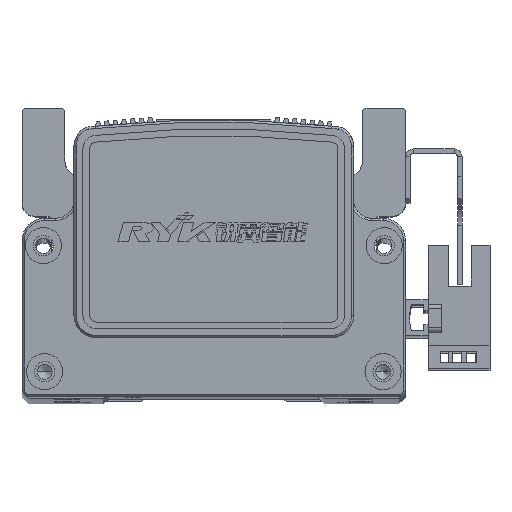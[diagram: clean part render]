
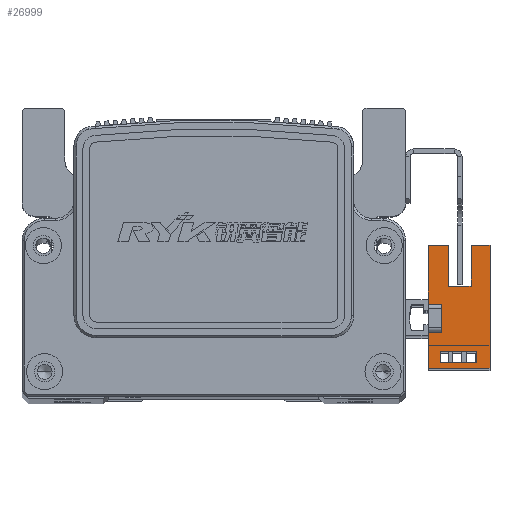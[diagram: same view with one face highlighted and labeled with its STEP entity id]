
A CAD part, top view. The second image highlights one B-rep face of the part: STEP entity #26999.
In plain terms, the highlighted planar face has unit normal (0, 0, 1) as drawn and (1, 0, 0) by its records, which use the part's own axes.
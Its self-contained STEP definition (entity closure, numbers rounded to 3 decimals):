
#953 = FACE_OUTER_BOUND ( 'NONE', #24796, .T. ) ;
#975 = FACE_BOUND ( 'NONE', #24797, .T. ) ;
#2653 = CARTESIAN_POINT ( 'NONE',  ( 3.2, 16.1, -10.7 ) ) ;
#2657 = CARTESIAN_POINT ( 'NONE',  ( 3.2, 3.1, 0. ) ) ;
#2684 = CARTESIAN_POINT ( 'NONE',  ( 3.2, -3.1, 3. ) ) ;
#2685 = CARTESIAN_POINT ( 'NONE',  ( 3.2, -9.83, -7.7 ) ) ;
#2697 = CARTESIAN_POINT ( 'NONE',  ( 3.2, -11.1, 3. ) ) ;
#2703 = CARTESIAN_POINT ( 'NONE',  ( 3.2, 3.1, 3. ) ) ;
#2706 = CARTESIAN_POINT ( 'NONE',  ( 3.2, 16.1, 3. ) ) ;
#2721 = CARTESIAN_POINT ( 'NONE',  ( 3.2, 7.1, -1.5 ) ) ;
#2743 = CARTESIAN_POINT ( 'NONE',  ( 3.2, 16.1, -1.5 ) ) ;
#2749 = CARTESIAN_POINT ( 'NONE',  ( 3.2, -7.33, -7.7 ) ) ;
#2754 = CARTESIAN_POINT ( 'NONE',  ( 3.2, -3.1, 0. ) ) ;
#2758 = CARTESIAN_POINT ( 'NONE',  ( 3.2, -9.83, 0.3 ) ) ;
#2766 = CARTESIAN_POINT ( 'NONE',  ( 3.2, -7.33, 0.3 ) ) ;
#2768 = CARTESIAN_POINT ( 'NONE',  ( 3.2, 16.1, -6.5 ) ) ;
#2794 = CARTESIAN_POINT ( 'NONE',  ( 3.2, -11.1, -10.7 ) ) ;
#2812 = CARTESIAN_POINT ( 'NONE',  ( 3.2, 7.1, -6.5 ) ) ;
#6299 = CARTESIAN_POINT ( 'NONE',  ( 3.2, 16.1, -10.7 ) ) ;
#6326 = DIRECTION ( 'NONE',  ( 1., 0., 0. ) ) ;
#6340 = PLANE ( 'NONE',  #60244 ) ;
#6342 = DIRECTION ( 'NONE',  ( 0., 1., 0. ) ) ;
#22884 = EDGE_CURVE ( 'NONE', #46561, #46519, #55185, .T. ) ;
#22904 = EDGE_CURVE ( 'NONE', #46532, #46538, #55256, .T. ) ;
#22924 = EDGE_CURVE ( 'NONE', #46556, #46589, #55312, .T. ) ;
#22980 = EDGE_CURVE ( 'NONE', #46624, #46564, #55421, .T. ) ;
#22984 = EDGE_CURVE ( 'NONE', #46519, #46624, #55450, .T. ) ;
#22998 = EDGE_CURVE ( 'NONE', #46594, #46631, #55446, .T. ) ;
#23003 = EDGE_CURVE ( 'NONE', #46648, #46597, #55447, .T. ) ;
#23010 = EDGE_CURVE ( 'NONE', #46645, #46556, #55459, .T. ) ;
#23017 = EDGE_CURVE ( 'NONE', #46632, #46594, #55472, .T. ) ;
#23040 = EDGE_CURVE ( 'NONE', #46645, #46561, #55559, .T. ) ;
#23044 = EDGE_CURVE ( 'NONE', #46564, #46532, #55538, .T. ) ;
#23053 = EDGE_CURVE ( 'NONE', #46597, #46621, #55618, .T. ) ;
#23055 = EDGE_CURVE ( 'NONE', #46589, #46648, #55601, .T. ) ;
#23104 = EDGE_CURVE ( 'NONE', #46621, #46538, #55694, .T. ) ;
#23107 = EDGE_CURVE ( 'NONE', #46560, #46632, #55645, .T. ) ;
#23117 = EDGE_CURVE ( 'NONE', #46631, #46560, #55658, .T. ) ;
#24796 = EDGE_LOOP ( 'NONE', ( #30878, #30899, #30931, #30918, #30849, #30823, #30891, #30932, #30922, #30872, #30820, #30893 ) ) ;
#24797 = EDGE_LOOP ( 'NONE', ( #30854, #30896, #30929, #30864 ) ) ;
#26999 = ADVANCED_FACE ( 'NONE', ( #953, #975 ), #6340, .T. ) ;
#30820 = ORIENTED_EDGE ( 'NONE', *, *, #23010, .T. ) ;
#30823 = ORIENTED_EDGE ( 'NONE', *, *, #23044, .F. ) ;
#30849 = ORIENTED_EDGE ( 'NONE', *, *, #22904, .F. ) ;
#30854 = ORIENTED_EDGE ( 'NONE', *, *, #22998, .F. ) ;
#30864 = ORIENTED_EDGE ( 'NONE', *, *, #23117, .F. ) ;
#30872 = ORIENTED_EDGE ( 'NONE', *, *, #23040, .F. ) ;
#30878 = ORIENTED_EDGE ( 'NONE', *, *, #23055, .T. ) ;
#30891 = ORIENTED_EDGE ( 'NONE', *, *, #22980, .F. ) ;
#30893 = ORIENTED_EDGE ( 'NONE', *, *, #22924, .T. ) ;
#30896 = ORIENTED_EDGE ( 'NONE', *, *, #23017, .F. ) ;
#30899 = ORIENTED_EDGE ( 'NONE', *, *, #23003, .T. ) ;
#30918 = ORIENTED_EDGE ( 'NONE', *, *, #23104, .T. ) ;
#30922 = ORIENTED_EDGE ( 'NONE', *, *, #22884, .F. ) ;
#30929 = ORIENTED_EDGE ( 'NONE', *, *, #23107, .F. ) ;
#30931 = ORIENTED_EDGE ( 'NONE', *, *, #23053, .T. ) ;
#30932 = ORIENTED_EDGE ( 'NONE', *, *, #22984, .F. ) ;
#46519 = VERTEX_POINT ( 'NONE', #2684 ) ;
#46532 = VERTEX_POINT ( 'NONE', #2703 ) ;
#46538 = VERTEX_POINT ( 'NONE', #2706 ) ;
#46556 = VERTEX_POINT ( 'NONE', #2653 ) ;
#46560 = VERTEX_POINT ( 'NONE', #2685 ) ;
#46561 = VERTEX_POINT ( 'NONE', #2697 ) ;
#46564 = VERTEX_POINT ( 'NONE', #2657 ) ;
#46589 = VERTEX_POINT ( 'NONE', #2768 ) ;
#46594 = VERTEX_POINT ( 'NONE', #2766 ) ;
#46597 = VERTEX_POINT ( 'NONE', #2721 ) ;
#46621 = VERTEX_POINT ( 'NONE', #2743 ) ;
#46624 = VERTEX_POINT ( 'NONE', #2754 ) ;
#46631 = VERTEX_POINT ( 'NONE', #2758 ) ;
#46632 = VERTEX_POINT ( 'NONE', #2749 ) ;
#46645 = VERTEX_POINT ( 'NONE', #2794 ) ;
#46648 = VERTEX_POINT ( 'NONE', #2812 ) ;
#49223 = DIRECTION ( 'NONE',  ( 0., 0., 1. ) ) ;
#49256 = CARTESIAN_POINT ( 'NONE',  ( 3.2, -7.33, -10.7 ) ) ;
#49288 = CARTESIAN_POINT ( 'NONE',  ( 3.2, -11.1, 3. ) ) ;
#49289 = DIRECTION ( 'NONE',  ( 0., 0., 1. ) ) ;
#49314 = CARTESIAN_POINT ( 'NONE',  ( 3.2, 25.1, -1.5 ) ) ;
#49323 = DIRECTION ( 'NONE',  ( 0., 0., 1. ) ) ;
#49325 = DIRECTION ( 'NONE',  ( 0., 1., 0. ) ) ;
#49338 = CARTESIAN_POINT ( 'NONE',  ( 3.2, 3.1, 3. ) ) ;
#49381 = DIRECTION ( 'NONE',  ( 0., -1., 0. ) ) ;
#49388 = CARTESIAN_POINT ( 'NONE',  ( 3.2, 25.1, -6.5 ) ) ;
#49594 = CARTESIAN_POINT ( 'NONE',  ( 3.2, 16.1, -7.7 ) ) ;
#49625 = DIRECTION ( 'NONE',  ( 0., 1., 0. ) ) ;
#49645 = CARTESIAN_POINT ( 'NONE',  ( 3.2, 16.1, -10.7 ) ) ;
#49647 = DIRECTION ( 'NONE',  ( 0., 0., 1. ) ) ;
#49699 = CARTESIAN_POINT ( 'NONE',  ( 3.2, -9.83, -10.7 ) ) ;
#49715 = DIRECTION ( 'NONE',  ( 0., 0., -1. ) ) ;
#52565 = DIRECTION ( 'NONE',  ( 0., -1., 0. ) ) ;
#52585 = DIRECTION ( 'NONE',  ( 0., 0., 1. ) ) ;
#52620 = DIRECTION ( 'NONE',  ( 0., 1., 0. ) ) ;
#52632 = CARTESIAN_POINT ( 'NONE',  ( 3.2, 16.1, -10.7 ) ) ;
#52648 = CARTESIAN_POINT ( 'NONE',  ( 3.2, 7.1, -6.5 ) ) ;
#54121 = CARTESIAN_POINT ( 'NONE',  ( 3.2, 16.1, 3. ) ) ;
#54167 = DIRECTION ( 'NONE',  ( 0., 1., 0. ) ) ;
#54224 = DIRECTION ( 'NONE',  ( 0., 1., 0. ) ) ;
#54238 = CARTESIAN_POINT ( 'NONE',  ( 3.2, 16.1, 3. ) ) ;
#54325 = DIRECTION ( 'NONE',  ( 0., 0., 1. ) ) ;
#54350 = CARTESIAN_POINT ( 'NONE',  ( 3.2, 16.1, -10.7 ) ) ;
#54471 = CARTESIAN_POINT ( 'NONE',  ( 3.2, 0., 0. ) ) ;
#54491 = DIRECTION ( 'NONE',  ( 0., 1., 0. ) ) ;
#54569 = CARTESIAN_POINT ( 'NONE',  ( 3.2, 16.1, 0.3 ) ) ;
#54581 = CARTESIAN_POINT ( 'NONE',  ( 3.2, -3.1, 3. ) ) ;
#54587 = DIRECTION ( 'NONE',  ( 0., 0., -1. ) ) ;
#55183 = VECTOR ( 'NONE', #54167, 1000. ) ;
#55185 = LINE ( 'NONE', #54121, #55183 ) ;
#55256 = LINE ( 'NONE', #54238, #55301 ) ;
#55301 = VECTOR ( 'NONE', #54224, 1000. ) ;
#55312 = LINE ( 'NONE', #54350, #55353 ) ;
#55353 = VECTOR ( 'NONE', #54325, 1000. ) ;
#55421 = LINE ( 'NONE', #54471, #55430 ) ;
#55430 = VECTOR ( 'NONE', #54491, 1000. ) ;
#55446 = LINE ( 'NONE', #54569, #55486 ) ;
#55447 = LINE ( 'NONE', #52648, #55458 ) ;
#55450 = LINE ( 'NONE', #54581, #55456 ) ;
#55452 = VECTOR ( 'NONE', #52620, 1000. ) ;
#55456 = VECTOR ( 'NONE', #54587, 1000. ) ;
#55458 = VECTOR ( 'NONE', #52585, 1000. ) ;
#55459 = LINE ( 'NONE', #52632, #55452 ) ;
#55472 = LINE ( 'NONE', #49256, #55501 ) ;
#55486 = VECTOR ( 'NONE', #52565, 1000. ) ;
#55501 = VECTOR ( 'NONE', #49223, 1000. ) ;
#55504 = VECTOR ( 'NONE', #49289, 1000. ) ;
#55538 = LINE ( 'NONE', #49338, #55546 ) ;
#55546 = VECTOR ( 'NONE', #49323, 1000. ) ;
#55559 = LINE ( 'NONE', #49288, #55504 ) ;
#55572 = VECTOR ( 'NONE', #49325, 1000. ) ;
#55601 = LINE ( 'NONE', #49388, #55628 ) ;
#55618 = LINE ( 'NONE', #49314, #55572 ) ;
#55628 = VECTOR ( 'NONE', #49381, 1000. ) ;
#55645 = LINE ( 'NONE', #49594, #55649 ) ;
#55649 = VECTOR ( 'NONE', #49625, 1000. ) ;
#55658 = LINE ( 'NONE', #49699, #55681 ) ;
#55681 = VECTOR ( 'NONE', #49715, 1000. ) ;
#55683 = VECTOR ( 'NONE', #49647, 1000. ) ;
#55694 = LINE ( 'NONE', #49645, #55683 ) ;
#60244 = AXIS2_PLACEMENT_3D ( 'NONE', #6299, #6326, #6342 ) ;
